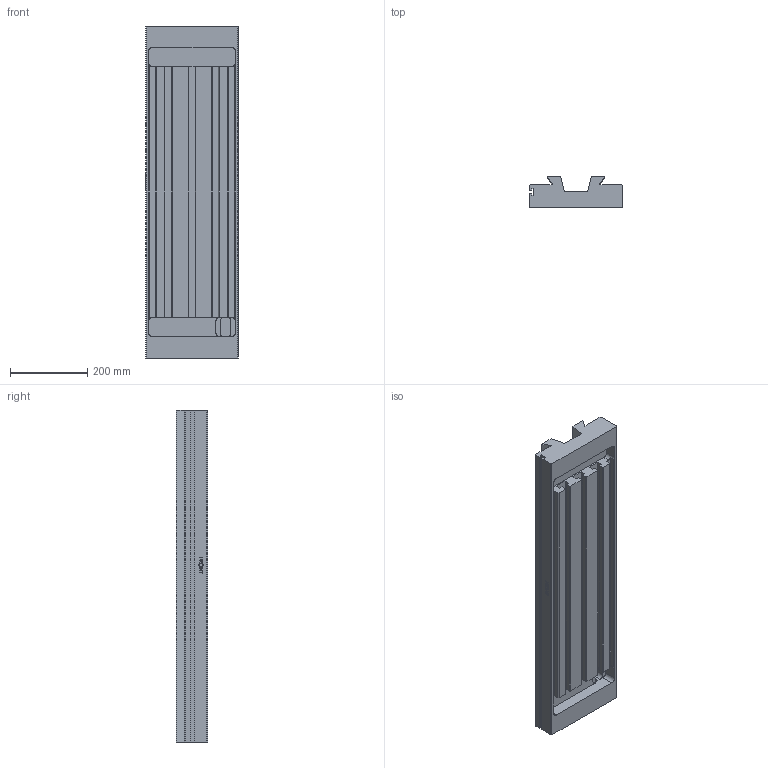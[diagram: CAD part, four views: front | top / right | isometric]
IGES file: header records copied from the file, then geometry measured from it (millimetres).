
Start section: SolidWorks IGES file using analytic representation for surfaces
Global section: file name: U:\SOLIDWORKS HOLDING FILE\1100 MACHINE\1100 X-AXIS SADDLE 860mm long.IGS; native system: SolidWorks 2012; preprocessor: SolidWorks 2012; author: RTooley; date: 140128.135605; units: millimetre
Bounding box: 240 x 81 x 860 mm (x, y, z)
Surface area: 918285.3 mm2 (no closed solid volume)
Topology: 0 solids, 0 shells, 173 faces, 1720 edges, 1720 vertices
Faces by surface type: bspline 155, revolution 18
